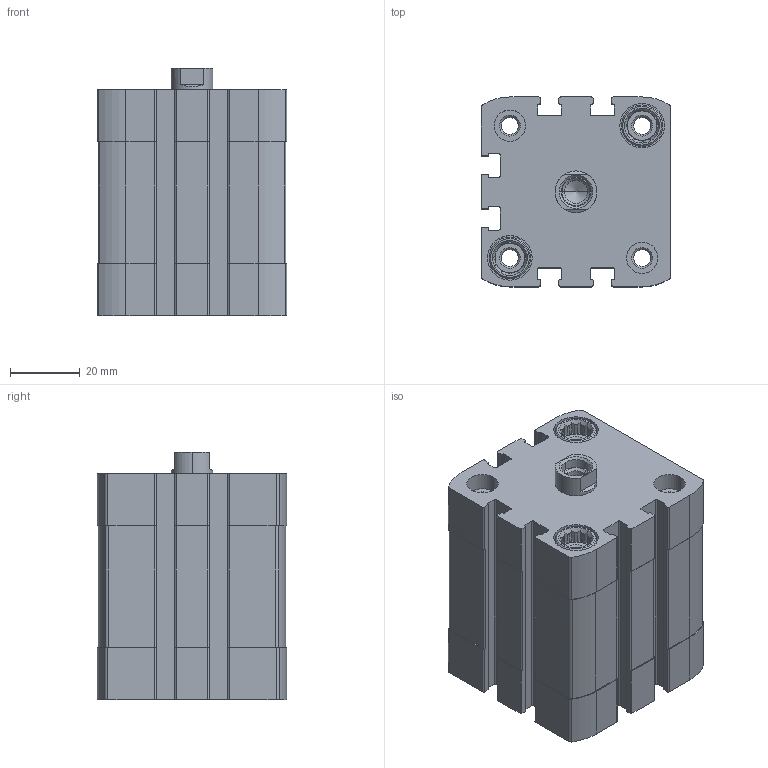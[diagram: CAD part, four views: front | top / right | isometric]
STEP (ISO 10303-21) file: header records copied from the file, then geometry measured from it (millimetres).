
FILE_DESCRIPTION (( 'STEP AP203' ), '1' );
FILE_NAME ('CCN40-20F.STEP', '2017-04-06T12:30:09', ( '' ), ( '' ), 'SwSTEP 2.0', 'SolidWorks 2016', '' );
FILE_SCHEMA (( 'CONFIG_CONTROL_DESIGN' ));
Length unit declared in the file: millimetre
Products named in the file (3): CCN-20---(Z); CCN-20_(KS); CCN40-20F
Assembly tree (2 placements, depth 2):
  CCN40-20F
    CCN-20---(Z)
    CCN-20_(KS)
Bounding box: 54.5 x 54.5 x 71.1 mm (x, y, z)
Volume: 143822.4 mm3; surface area: 44137.7 mm2
Topology: 2 solids, 2 shells, 479 faces, 1296 edges, 851 vertices
Faces by surface type: plane 267, cylinder 170, cone 42
Entity records: 15569 total; most frequent: CARTESIAN_POINT 2923, DIRECTION 2648, ORIENTED_EDGE 2588, EDGE_CURVE 1294, AXIS2_PLACEMENT_3D 968, VERTEX_POINT 851, LINE 712, VECTOR 712
